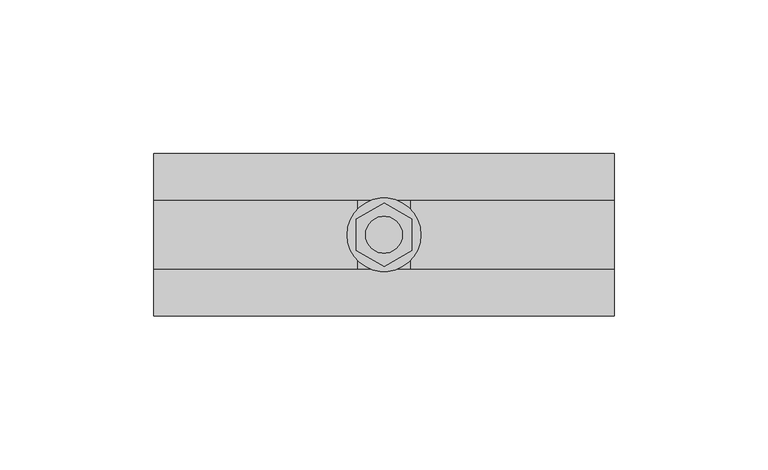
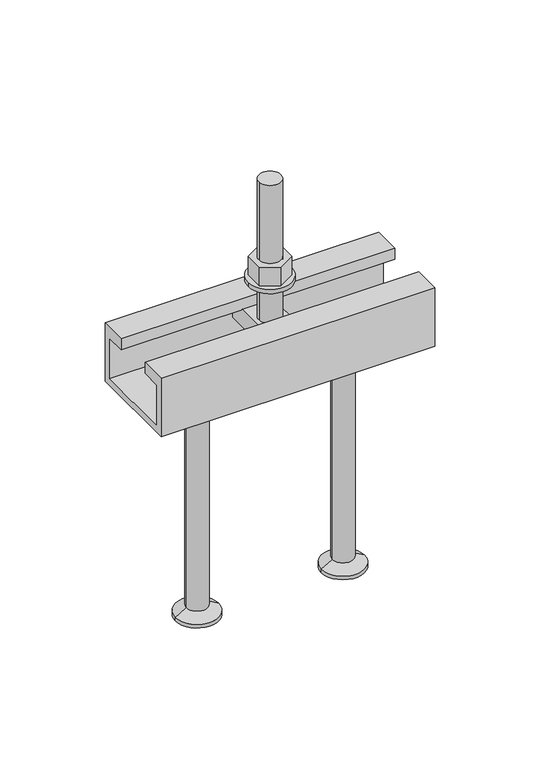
"""IFC4 building model written with IfcOpenShell, lengths in millimetres: fastener geometry, JTA-W JORDAHL® AnchorChannels : JTA-W L=150 mm."""

from ifc_helpers import new_model, si_unit, point, frame, frame_2d, origin, place, context, project, spatial, polyline, circle_curve, trimmed, segment, composite_curve, outline, extrude, source, transform, mapped, element, save
from ifc_brep_helpers import plane_surface, cylinder_surface, revolved_surface, advanced_brep


def fastener_af873e41(model_context):
    return source(origin(), model_context, "Body", "SolidModel", [
        extrude(outline(polyline([(75.0, -10.3923048), (66.0, -5.1961524), (66.0, 5.1961524), (75.0, 10.3923048), (84.0, 5.1961524), (84.0, -5.1961524), (75.0, -10.3923048)]), holes=[composite_curve([segment(trimmed(circle_curve(frame_2d((75.0, 0.0)), 6.0), [point((69.0, 0.0))], [point((81.0, 0.0))], True, "CARTESIAN"), True, "CONTINUOUS"), segment(trimmed(circle_curve(frame_2d((75.0, 0.0)), 6.0), [point((81.0, 0.0))], [point((69.0, 0.0))], True, "CARTESIAN"), True, "CONTINUOUS")], self_intersect=False)]), frame((0.0, 0.0, 17.5), z_axis=(0.0, 0.0, 1.0), x_axis=(1.0, 0.0, 0.0)), (0.0, 0.0, 1.0), 10.8),
        extrude(outline(composite_curve([segment(trimmed(circle_curve(frame_2d((75.0, 0.0)), 12.0), [point((63.0, 0.0))], [point((87.0, 0.0))], False, "CARTESIAN"), True, "CONTINUOUS"), segment(trimmed(circle_curve(frame_2d((75.0, 0.0)), 12.0), [point((87.0, 0.0))], [point((63.0, 0.0))], False, "CARTESIAN"), True, "CONTINUOUS")], self_intersect=False), holes=[composite_curve([segment(trimmed(circle_curve(frame_2d((75.0, 0.0)), 6.5), [point((68.5, 0.0))], [point((81.5, 0.0))], True, "CARTESIAN"), True, "CONTINUOUS"), segment(trimmed(circle_curve(frame_2d((75.0, 0.0)), 6.5), [point((81.5, 0.0))], [point((68.5, 0.0))], True, "CARTESIAN"), True, "CONTINUOUS")], self_intersect=False)]), frame((0.0, 0.0, 15.0), z_axis=(0.0, 0.0, 1.0), x_axis=(1.0, 0.0, 0.0)), (0.0, 0.0, 1.0), 2.5),
        advanced_brep(
        [(83.5, -20.7, -6.5), (83.5, -20.7, -16.5), (83.5, 20.7, -16.5), (83.5, 20.7, -6.5), (66.5, -20.7, -6.5), (66.5, 20.7, -6.5), (66.5, 20.7, -16.5), (66.5, -20.7, -16.5), (81.0, 0.0, -6.5), (69.0, 0.0, -6.5), (69.0, 0.0, 73.5), (81.0, 0.0, 73.5)],
        [
            (0, 1),
            (1, 2),
            (2, 3),
            (3, 0),
            (4, 5),
            (5, 6),
            (6, 7),
            (7, 4),
            (3, 5),
            (4, 0),
            (8, 9, circle_curve(frame((75.0, 0.0, -6.5), z_axis=(0.0, 0.0, -1.0), x_axis=(1.0, 0.0, 0.0)), 6.0)),
            (9, 8, circle_curve(frame((75.0, 0.0, -6.5), z_axis=(0.0, 0.0, -1.0), x_axis=(1.0, 0.0, 0.0)), 6.0)),
            (2, 6),
            (1, 7),
            (10, 11, circle_curve(frame((75.0, 0.0, 73.5), z_axis=(0.0, 0.0, 1.0), x_axis=(1.0, 0.0, 0.0)), 6.0)),
            (11, 10, circle_curve(frame((75.0, 0.0, 73.5), z_axis=(0.0, 0.0, 1.0), x_axis=(1.0, 0.0, 0.0)), 6.0)),
            (11, 8),
            (9, 10),
        ],
        [
            plane_surface(frame((83.5, 20.7, -6.5), z_axis=(1.0, 0.0, 0.0), x_axis=(0.0, 1.0, 0.0))),
            plane_surface(frame((66.5, 20.7, -6.5), z_axis=(-1.0, 0.0, 0.0), x_axis=(0.0, -1.0, 0.0))),
            plane_surface(frame((83.5, -20.7, -6.5), z_axis=(0.0, 0.0, 1.0), x_axis=(-1.0, 0.0, 0.0))),
            plane_surface(frame((83.5, 20.7, -6.5), z_axis=(0.0, 1.0, 0.0), x_axis=(-1.0, 0.0, 0.0))),
            plane_surface(frame((83.5, 20.7, -16.5), z_axis=(0.0, 0.0, -1.0), x_axis=(-1.0, 0.0, 0.0))),
            plane_surface(frame((83.5, -20.7, -16.5), z_axis=(0.0, -1.0, 0.0), x_axis=(-1.0, 0.0, 0.0))),
            plane_surface(frame((81.0, 0.0, 73.5), z_axis=(0.0, 0.0, 1.0), x_axis=(0.0, -1.0, 0.0))),
            cylinder_surface(frame((75.0, 0.0, -6.5), z_axis=(0.0, 0.0, 1.0), x_axis=(1.0, 0.0, 0.0)), 6.0),
        ],
        [
            (0, [[1, 2, 3, 4]]),
            (1, [[5, 6, 7, 8]]),
            (2, [[9, -5, 10, -4], [11, 12]]),
            (3, [[13, -6, -9, -3]]),
            (4, [[14, -7, -13, -2]]),
            (5, [[-10, -8, -14, -1]]),
            (6, [[15, 16]]),
            (7, [[17, -12, 18, -16]]),
            (7, [[-18, -11, -17, -15]]),
        ],
    ),
        advanced_brep(
        [(115.0, 0.0, -34.0), (97.5, 0.0, -34.0), (132.5, 0.0, -34.0), (103.2, 0.0, -165.0), (115.0, 0.0, -165.0), (126.8, 0.0, -165.0), (103.2, 0.0, -163.0), (126.8, 0.0, -163.0), (109.2, 0.0, -159.5358984), (120.8, 0.0, -159.5358984), (109.2, 0.0, -37.0), (120.8, 0.0, -37.0)],
        [
            (0, 1),
            (1, 2, circle_curve(frame((115.0, 0.0, -34.0), z_axis=(0.0, 0.0, 1.0), x_axis=(1.0, 0.0, 0.0)), 17.5)),
            (2, 0),
            (2, 1, circle_curve(frame((115.0, 0.0, -34.0), z_axis=(0.0, 0.0, 1.0), x_axis=(1.0, 0.0, 0.0)), 17.5)),
            (3, 4),
            (4, 5),
            (5, 3, circle_curve(frame((115.0, 0.0, -165.0), z_axis=(0.0, 0.0, -1.0), x_axis=(1.0, 0.0, 0.0)), 11.8)),
            (3, 5, circle_curve(frame((115.0, 0.0, -165.0), z_axis=(0.0, 0.0, -1.0), x_axis=(1.0, 0.0, 0.0)), 11.8)),
            (6, 3),
            (5, 7),
            (7, 6, circle_curve(frame((115.0, 0.0, -163.0), z_axis=(0.0, 0.0, -1.0), x_axis=(1.0, 0.0, 0.0)), 11.8)),
            (6, 7, circle_curve(frame((115.0, 0.0, -163.0), z_axis=(0.0, 0.0, -1.0), x_axis=(1.0, 0.0, 0.0)), 11.8)),
            (8, 6),
            (7, 9),
            (9, 8, circle_curve(frame((115.0, 0.0, -159.5358984), z_axis=(0.0, 0.0, -1.0), x_axis=(1.0, 0.0, 0.0)), 5.8)),
            (8, 9, circle_curve(frame((115.0, 0.0, -159.5358984), z_axis=(0.0, 0.0, -1.0), x_axis=(1.0, 0.0, 0.0)), 5.8)),
            (10, 8),
            (9, 11),
            (11, 10, circle_curve(frame((115.0, 0.0, -37.0), z_axis=(0.0, 0.0, -1.0), x_axis=(1.0, 0.0, 0.0)), 5.8)),
            (10, 11, circle_curve(frame((115.0, 0.0, -37.0), z_axis=(0.0, 0.0, -1.0), x_axis=(1.0, 0.0, 0.0)), 5.8)),
            (1, 10),
            (11, 2),
        ],
        [
            plane_surface(frame((115.0, 0.0, -34.0), z_axis=(0.0, 0.0, 1.0), x_axis=(1.0, 0.0, 0.0))),
            plane_surface(frame((115.0, 0.0, -165.0), z_axis=(0.0, 0.0, -1.0), x_axis=(1.0, 0.0, 0.0))),
            cylinder_surface(frame((115.0, 0.0, 2345.3150031), z_axis=(0.0, 0.0, 1.0), x_axis=(1.0, 0.0, 0.0)), 11.8),
            revolved_surface(polyline([(126.8, 0.0, -163.0), (120.8, 0.0, -159.5358984)]), (115.0, 0.0, 2345.3150031), (0.0, 0.0, 1.0)),
            cylinder_surface(frame((115.0, 0.0, 2345.3150031), z_axis=(0.0, 0.0, 1.0), x_axis=(1.0, 0.0, 0.0)), 5.8),
            revolved_surface(polyline([(120.8, 0.0, -37.0), (132.5, 0.0, -34.0)]), (115.0, 0.0, 2345.3150031), (0.0, 0.0, 1.0)),
        ],
        [
            (0, [[1, 2, 3]]),
            (0, [[-3, 4, -1]]),
            (1, [[5, 6, 7]]),
            (1, [[-6, -5, 8]]),
            (2, [[9, -7, 10, 11]]),
            (2, [[-10, -8, -9, 12]]),
            (3, [[13, -11, 14, 15]]),
            (3, [[-14, -12, -13, 16]]),
            (4, [[17, -15, 18, 19]]),
            (4, [[-18, -16, -17, 20]]),
            (5, [[21, -19, 22, -2]]),
            (5, [[-22, -20, -21, -4]]),
        ],
    ),
        advanced_brep(
        [(35.0, 0.0, -34.0), (17.5, 0.0, -34.0), (52.5, 0.0, -34.0), (23.2, 0.0, -165.0), (35.0, 0.0, -165.0), (46.8, 0.0, -165.0), (23.2, 0.0, -163.0), (46.8, 0.0, -163.0), (29.2, 0.0, -159.5358984), (40.8, 0.0, -159.5358984), (29.2, 0.0, -37.0), (40.8, 0.0, -37.0)],
        [
            (0, 1),
            (1, 2, circle_curve(frame((35.0, 0.0, -34.0), z_axis=(0.0, 0.0, 1.0), x_axis=(1.0, 0.0, 0.0)), 17.5)),
            (2, 0),
            (2, 1, circle_curve(frame((35.0, 0.0, -34.0), z_axis=(0.0, 0.0, 1.0), x_axis=(1.0, 0.0, 0.0)), 17.5)),
            (3, 4),
            (4, 5),
            (5, 3, circle_curve(frame((35.0, 0.0, -165.0), z_axis=(0.0, 0.0, -1.0), x_axis=(1.0, 0.0, 0.0)), 11.8)),
            (3, 5, circle_curve(frame((35.0, 0.0, -165.0), z_axis=(0.0, 0.0, -1.0), x_axis=(1.0, 0.0, 0.0)), 11.8)),
            (6, 3),
            (5, 7),
            (7, 6, circle_curve(frame((35.0, 0.0, -163.0), z_axis=(0.0, 0.0, -1.0), x_axis=(1.0, 0.0, 0.0)), 11.8)),
            (6, 7, circle_curve(frame((35.0, 0.0, -163.0), z_axis=(0.0, 0.0, -1.0), x_axis=(1.0, 0.0, 0.0)), 11.8)),
            (8, 6),
            (7, 9),
            (9, 8, circle_curve(frame((35.0, 0.0, -159.5358984), z_axis=(0.0, 0.0, -1.0), x_axis=(1.0, 0.0, 0.0)), 5.8)),
            (8, 9, circle_curve(frame((35.0, 0.0, -159.5358984), z_axis=(0.0, 0.0, -1.0), x_axis=(1.0, 0.0, 0.0)), 5.8)),
            (10, 8),
            (9, 11),
            (11, 10, circle_curve(frame((35.0, 0.0, -37.0), z_axis=(0.0, 0.0, -1.0), x_axis=(1.0, 0.0, 0.0)), 5.8)),
            (10, 11, circle_curve(frame((35.0, 0.0, -37.0), z_axis=(0.0, 0.0, -1.0), x_axis=(1.0, 0.0, 0.0)), 5.8)),
            (1, 10),
            (11, 2),
        ],
        [
            plane_surface(frame((35.0, 0.0, -34.0), z_axis=(0.0, 0.0, 1.0), x_axis=(1.0, 0.0, 0.0))),
            plane_surface(frame((35.0, 0.0, -165.0), z_axis=(0.0, 0.0, -1.0), x_axis=(1.0, 0.0, 0.0))),
            cylinder_surface(frame((35.0, 0.0, 2345.3150031), z_axis=(0.0, 0.0, 1.0), x_axis=(1.0, 0.0, 0.0)), 11.8),
            revolved_surface(polyline([(46.8, 0.0, -163.0), (40.8, 0.0, -159.5358984)]), (35.0, 0.0, 2345.3150031), (0.0, 0.0, 1.0)),
            cylinder_surface(frame((35.0, 0.0, 2345.3150031), z_axis=(0.0, 0.0, 1.0), x_axis=(1.0, 0.0, 0.0)), 5.8),
            revolved_surface(polyline([(40.8, 0.0, -37.0), (52.5, 0.0, -34.0)]), (35.0, 0.0, 2345.3150031), (0.0, 0.0, 1.0)),
        ],
        [
            (0, [[1, 2, 3]]),
            (0, [[-3, 4, -1]]),
            (1, [[5, 6, 7]]),
            (1, [[-6, -5, 8]]),
            (2, [[9, -7, 10, 11]]),
            (2, [[-10, -8, -9, 12]]),
            (3, [[13, -11, 14, 15]]),
            (3, [[-14, -12, -13, 16]]),
            (4, [[17, -15, 18, 19]]),
            (4, [[-18, -16, -17, 20]]),
            (5, [[21, -19, 22, -2]]),
            (5, [[-22, -20, -21, -4]]),
        ],
    ),
        extrude(outline(polyline([(-26.5, 0.0), (-11.25, 0.0), (-11.25, -6.5), (-22.5, -6.5), (-22.5, -30.0), (22.5, -30.0), (22.5, -6.5), (11.25, -6.5), (11.25, 0.0), (26.5, 0.0), (26.5, -34.0), (-26.5, -34.0), (-26.5, 0.0)])), frame((0.0, 0.0, 0.0), z_axis=(1.0, 0.0, 0.0), x_axis=(0.0, 1.0, 0.0)), (0.0, 0.0, 1.0), 150.0),
    ])


if __name__ == "__main__":
    model = new_model("IFC4")
    model_context = context("Model", 3, world=origin())
    ifc_project = project(units=[si_unit("LENGTHUNIT", "METRE", prefix="MILLI")], contexts=[model_context])
    site = spatial("IfcSite", under=ifc_project)
    building = spatial("IfcBuilding", under=site)
    placement = place(None, origin())
    fastener_shape = fastener_af873e41(model_context)
    element("IfcFastener", 1, ObjectType="JTA-W JORDAHL® AnchorChannels : JTA-W L=150 mm", at=placement, inside=building, context=model_context, shape_type="MappedRepresentation", body=[
        mapped(fastener_shape, transform((0.0, 0.0, 0.0), x_axis=(1.0, 0.0, 0.0), y_axis=(0.0, 1.0, 0.0), z_axis=(0.0, 0.0, 1.0))),
    ])
    save(model, "model.ifc")
